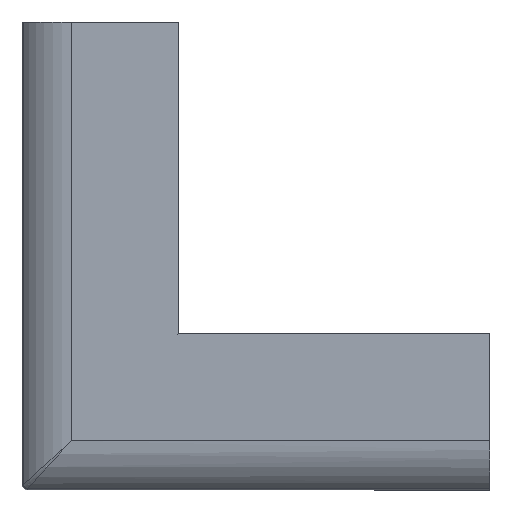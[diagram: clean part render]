
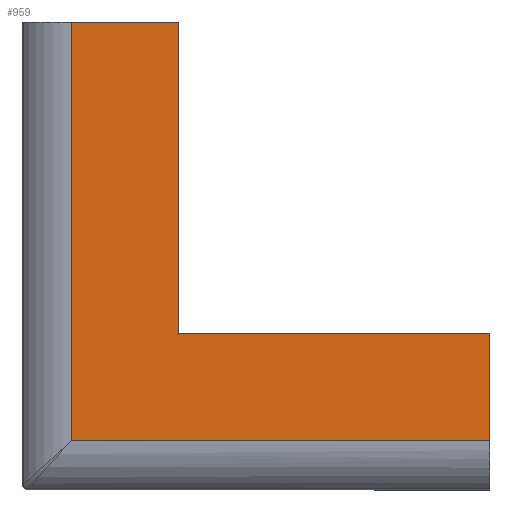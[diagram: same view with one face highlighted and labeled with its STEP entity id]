
A CAD part, left-side view. The second image highlights one B-rep face of the part: STEP entity #959.
In plain terms, the highlighted planar face has unit normal (-1, 0, 0).
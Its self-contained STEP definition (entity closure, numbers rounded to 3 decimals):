
#20 = LINE ( 'NONE', #718, #1449 ) ;
#43 = FACE_OUTER_BOUND ( 'NONE', #463, .T. ) ;
#46 = ORIENTED_EDGE ( 'NONE', *, *, #245, .T. ) ;
#120 = VECTOR ( 'NONE', #1156, 1000. ) ;
#146 = DIRECTION ( 'NONE',  ( 0., 0., 1. ) ) ;
#154 = VECTOR ( 'NONE', #1246, 1000. ) ;
#189 = LINE ( 'NONE', #1218, #154 ) ;
#230 = VERTEX_POINT ( 'NONE', #366 ) ;
#233 = ORIENTED_EDGE ( 'NONE', *, *, #808, .F. ) ;
#240 = VERTEX_POINT ( 'NONE', #503 ) ;
#245 = EDGE_CURVE ( 'NONE', #1144, #1321, #994, .T. ) ;
#256 = LINE ( 'NONE', #923, #1169 ) ;
#274 = EDGE_CURVE ( 'NONE', #230, #240, #1259, .T. ) ;
#308 = CARTESIAN_POINT ( 'NONE',  ( 0., -30., -29. ) ) ;
#324 = CARTESIAN_POINT ( 'NONE',  ( 0., 9., -44. ) ) ;
#366 = CARTESIAN_POINT ( 'NONE',  ( 0., -1., -29. ) ) ;
#429 = ORIENTED_EDGE ( 'NONE', *, *, #741, .F. ) ;
#463 = EDGE_LOOP ( 'NONE', ( #233, #1289, #46, #429, #471, #1183 ) ) ;
#471 = ORIENTED_EDGE ( 'NONE', *, *, #274, .T. ) ;
#472 = DIRECTION ( 'NONE',  ( 0., 0., 1. ) ) ;
#484 = VERTEX_POINT ( 'NONE', #714 ) ;
#503 = CARTESIAN_POINT ( 'NONE',  ( 0., -1., 0. ) ) ;
#546 = DIRECTION ( 'NONE',  ( 0., -1., 0. ) ) ;
#564 = VERTEX_POINT ( 'NONE', #614 ) ;
#614 = CARTESIAN_POINT ( 'NONE',  ( 0., 9., -39. ) ) ;
#622 = EDGE_CURVE ( 'NONE', #484, #240, #256, .T. ) ;
#714 = CARTESIAN_POINT ( 'NONE',  ( 0., 9., 0. ) ) ;
#718 = CARTESIAN_POINT ( 'NONE',  ( 0., 14., -29. ) ) ;
#741 = EDGE_CURVE ( 'NONE', #230, #1321, #20, .T. ) ;
#772 = PLANE ( 'NONE',  #961 ) ;
#787 = VECTOR ( 'NONE', #146, 1000. ) ;
#799 = CARTESIAN_POINT ( 'NONE',  ( 0., 0., -44. ) ) ;
#802 = DIRECTION ( 'NONE',  ( -1., 0., 0. ) ) ;
#807 = CARTESIAN_POINT ( 'NONE',  ( 0., -1., -44. ) ) ;
#808 = EDGE_CURVE ( 'NONE', #564, #484, #1382, .T. ) ;
#876 = DIRECTION ( 'NONE',  ( 0., 0., 1. ) ) ;
#923 = CARTESIAN_POINT ( 'NONE',  ( 0., 0., 0. ) ) ;
#959 = ADVANCED_FACE ( 'NONE', ( #43 ), #772, .T. ) ;
#960 = CARTESIAN_POINT ( 'NONE',  ( 0., -30., -30. ) ) ;
#961 = AXIS2_PLACEMENT_3D ( 'NONE', #799, #802, #876 ) ;
#994 = LINE ( 'NONE', #960, #1028 ) ;
#1028 = VECTOR ( 'NONE', #472, 1000. ) ;
#1115 = EDGE_CURVE ( 'NONE', #564, #1144, #189, .T. ) ;
#1144 = VERTEX_POINT ( 'NONE', #1330 ) ;
#1156 = DIRECTION ( 'NONE',  ( 0., 0., 1. ) ) ;
#1169 = VECTOR ( 'NONE', #1390, 1000. ) ;
#1183 = ORIENTED_EDGE ( 'NONE', *, *, #622, .F. ) ;
#1218 = CARTESIAN_POINT ( 'NONE',  ( 0., 14., -39. ) ) ;
#1246 = DIRECTION ( 'NONE',  ( 0., -1., 0. ) ) ;
#1259 = LINE ( 'NONE', #807, #120 ) ;
#1289 = ORIENTED_EDGE ( 'NONE', *, *, #1115, .T. ) ;
#1321 = VERTEX_POINT ( 'NONE', #308 ) ;
#1330 = CARTESIAN_POINT ( 'NONE',  ( 0., -30., -39. ) ) ;
#1382 = LINE ( 'NONE', #324, #787 ) ;
#1390 = DIRECTION ( 'NONE',  ( 0., -1., 0. ) ) ;
#1449 = VECTOR ( 'NONE', #546, 1000. ) ;
